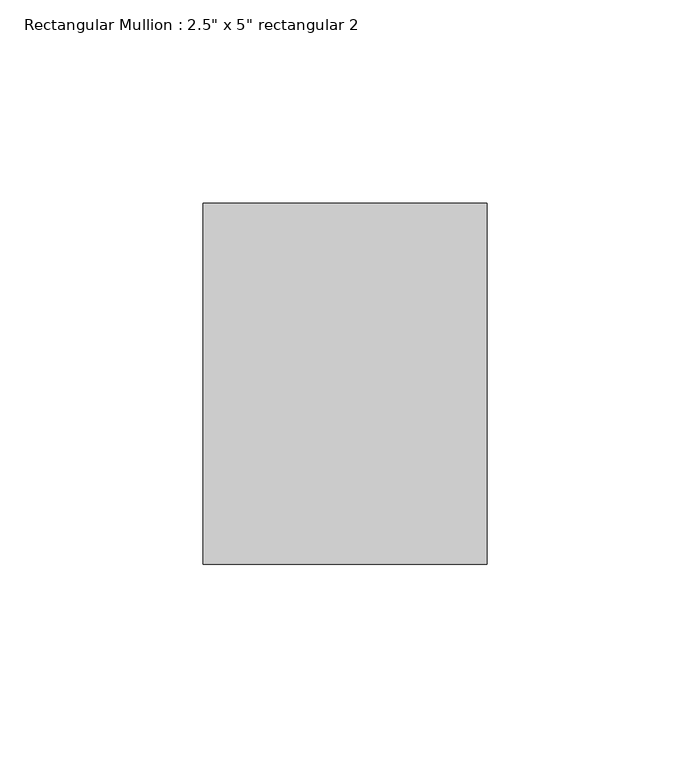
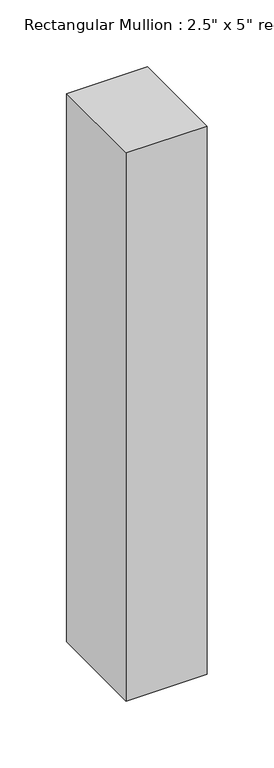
"""IFC4 building model written with IfcOpenShell, lengths in millimetres: member geometry."""

from ifc_helpers import new_model, si_unit, frame, origin, place, context, project, spatial, polyline, outline, extrude, source, transform, mapped, element, save


def member_dfb65aae(model_context):
    return source(origin(), model_context, "Body", "SweptSolid", [
        extrude(outline(polyline([(0.0, 44.45), (0.0, -44.45), (-69.85, -44.45), (-69.85, 44.45), (0.0, 44.45)])), frame((0.0, 0.0, -499.8033818), z_axis=(0.0, 0.0, 1.0), x_axis=(1.0, 0.0, 0.0)), (0.0, 0.0, 1.0), 499.8033818),
    ])


if __name__ == "__main__":
    model = new_model("IFC4")
    model_context = context("Model", 3, world=origin())
    ifc_project = project(units=[si_unit("LENGTHUNIT", "METRE", prefix="MILLI")], contexts=[model_context])
    site = spatial("IfcSite", under=ifc_project)
    building = spatial("IfcBuilding", under=site)
    placement = place(None, origin())
    member_shape = member_dfb65aae(model_context)
    element("IfcMember", 1, ObjectType="Rectangular Mullion : 2.5\" x 5\" rectangular 2", at=placement, inside=building, context=model_context, shape_type="MappedRepresentation", body=[
        mapped(member_shape, transform((0.0, 0.0, 0.0), x_axis=(1.0, 0.0, 0.0), y_axis=(0.0, 1.0, 0.0), z_axis=(0.0, 0.0, 1.0))),
    ])
    save(model, "model.ifc")
